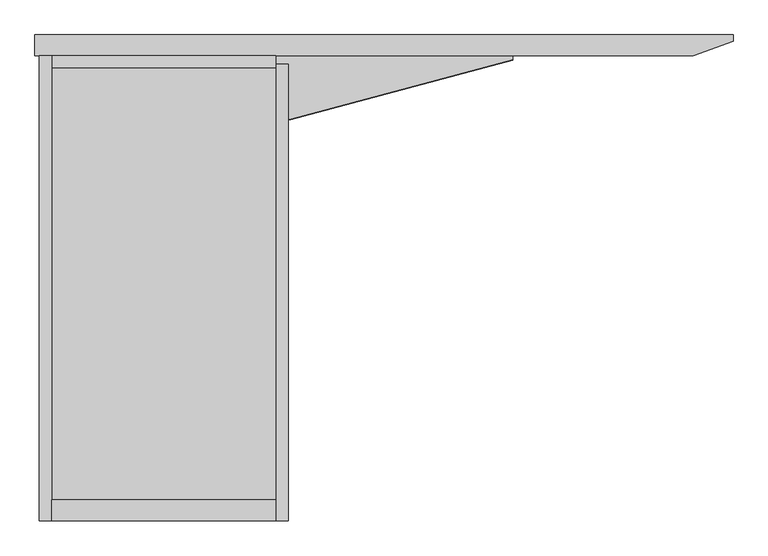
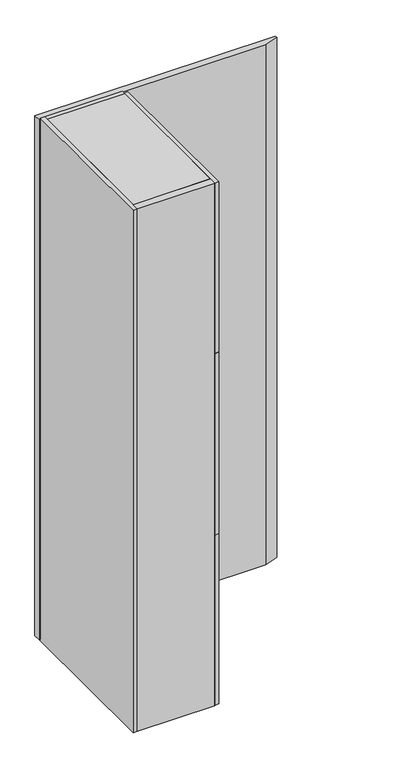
"""IFC4 building model written with IfcOpenShell, lengths in millimetres: proxy geometry, VIEWLINE^TABLE 2_INTERMEDIATE TOP-ASSEMBLY."""

from ifc_helpers import new_model, si_unit, frame, origin, origin_with_axes, place, context, project, spatial, polyline, outline, extrude, source, transform, mapped, element, save


def generic_models_2ec93c2f(model_context):
    return source(origin(), model_context, "Body", "SweptSolid", [
        extrude(outline(polyline([(1892.3, -711.2), (1892.3, -12.7), (1911.35, -12.7), (1911.35, -711.2), (1892.3, -711.2)])), frame((0.0, 0.0, -4.7625), z_axis=(0.0, 0.0, 1.0), x_axis=(1.0, 0.0, 0.0)), (0.0, 0.0, 1.0), 796.925),
        extrude(outline(polyline([(1828.8, 0.0), (2254.25, 0.0), (2254.25, -6.35), (1892.3, -103.3342102), (1892.3, -203.2), (1828.8, -203.2), (1828.8, 0.0)])), frame((0.0, 0.0, 739.14), z_axis=(0.0, 0.0, 1.0), x_axis=(1.0, 0.0, 0.0)), (0.0, 0.0, 1.0), 57.15),
        extrude(outline(polyline([(1892.3, -679.45), (1549.4, -679.45), (1549.4, -19.05), (1892.3, -19.05), (1892.3, -679.45)])), frame((0.0, 0.0, 1644.65), z_axis=(0.0, 0.0, 1.0), x_axis=(1.0, 0.0, 0.0)), (0.0, 0.0, 1.0), 19.05),
        extrude(outline(polyline([(1892.3, -711.2), (1549.4, -711.2), (1549.4, -679.45), (1892.3, -679.45), (1892.3, -711.2)])), frame((0.0, 0.0, -6.35), z_axis=(0.0, 0.0, 1.0), x_axis=(1.0, 0.0, 0.0)), (0.0, 0.0, 1.0), 2451.1),
        extrude(outline(polyline([(1892.3, -12.7), (1911.35, -12.7), (1911.35, -711.2), (1892.3, -711.2), (1892.3, -12.7)])), frame((0.0, 0.0, 793.75), z_axis=(0.0, 0.0, 1.0), x_axis=(1.0, 0.0, 0.0)), (0.0, 0.0, 1.0), 850.9),
        extrude(outline(polyline([(1892.3, -679.45), (1549.4, -679.45), (1549.4, -19.05), (1892.3, -19.05), (1892.3, -679.45)])), frame((0.0, 0.0, 774.7), z_axis=(0.0, 0.0, 1.0), x_axis=(1.0, 0.0, 0.0)), (0.0, 0.0, 1.0), 19.05),
        extrude(outline(polyline([(1549.4, -711.2), (1530.35, -711.2), (1530.35, 0.0), (1549.4, 0.0), (1549.4, -711.2)])), frame((0.0, 0.0, -6.35), z_axis=(0.0, 0.0, 1.0), x_axis=(1.0, 0.0, 0.0)), (0.0, 0.0, 1.0), 2451.1),
        extrude(outline(polyline([(1828.8, 0.0), (2254.25, 0.0), (2254.25, -6.35), (1892.3, -103.3342102), (1892.3, -203.2), (1828.8, -203.2), (1828.8, 0.0)])), frame((0.0, 0.0, 1642.11), z_axis=(0.0, 0.0, 1.0), x_axis=(1.0, 0.0, 0.0)), (0.0, 0.0, 1.0), 57.15),
        extrude(outline(polyline([(1892.3, -711.2), (1892.3, -12.7), (1911.35, -12.7), (1911.35, -711.2), (1892.3, -711.2)])), frame((0.0, 0.0, 1646.2375), z_axis=(0.0, 0.0, 1.0), x_axis=(1.0, 0.0, 0.0)), (0.0, 0.0, 1.0), 796.925),
        extrude(outline(polyline([(1892.3, -679.45), (1549.4, -679.45), (1549.4, -19.05), (1892.3, -19.05), (1892.3, -679.45)])), frame((0.0, 0.0, -6.35), z_axis=(0.0, 0.0, 1.0), x_axis=(1.0, 0.0, 0.0)), (0.0, 0.0, 1.0), 19.05),
        extrude(outline(polyline([(1892.3, -679.45), (1549.4, -679.45), (1549.4, -19.05), (1892.3, -19.05), (1892.3, -679.45)])), frame((0.0, 0.0, 2425.7), z_axis=(0.0, 0.0, 1.0), x_axis=(1.0, 0.0, 0.0)), (0.0, 0.0, 1.0), 19.05),
        extrude(outline(polyline([(2590.8, 22.225), (2529.7373144, 0.0), (1524.0, 0.0), (1524.0, 31.75), (2590.8, 31.75), (2590.8, 22.225)])), origin_with_axes(), (0.0, 0.0, 1.0), 2438.4),
        extrude(outline(polyline([(1780.1941511, 31.75), (1780.1941511, 19.05), (1646.8441511, 19.05), (1646.8441511, 31.75), (1780.1941511, 31.75)])), frame((0.0, 0.0, 1120.775), z_axis=(0.0, 0.0, 1.0), x_axis=(1.0, 0.0, 0.0)), (0.0, 0.0, 1.0), 196.85),
        extrude(outline(polyline([(1549.4, 0.0), (1892.3, 0.0), (1892.3, -19.05), (1549.4, -19.05), (1549.4, 0.0)])), frame((0.0, 0.0, -6.35), z_axis=(0.0, 0.0, 1.0), x_axis=(1.0, 0.0, 0.0)), (0.0, 0.0, 1.0), 2451.1),
    ])


if __name__ == "__main__":
    model = new_model("IFC4")
    model_context = context("Model", 3, world=origin())
    ifc_project = project(units=[si_unit("LENGTHUNIT", "METRE", prefix="MILLI")], contexts=[model_context])
    site = spatial("IfcSite", under=ifc_project)
    building = spatial("IfcBuilding", under=site)
    placement = place(None, origin())
    generic_models_shape = generic_models_2ec93c2f(model_context)
    element("IfcBuildingElementProxy", 1, Name="VIEWLINE^TABLE 2_INTERMEDIATE TOP-ASSEMBLY", ObjectType="VIEWLINE^TABLE 2_INTERMEDIATE TOP-ASSEMBLY", at=placement, inside=building, context=model_context, shape_type="MappedRepresentation", body=[
        mapped(generic_models_shape, transform((0.0, 0.0, 0.0), x_axis=(1.0, 0.0, 0.0), y_axis=(0.0, 1.0, 0.0), z_axis=(0.0, 0.0, 1.0))),
    ])
    save(model, "model.ifc")
